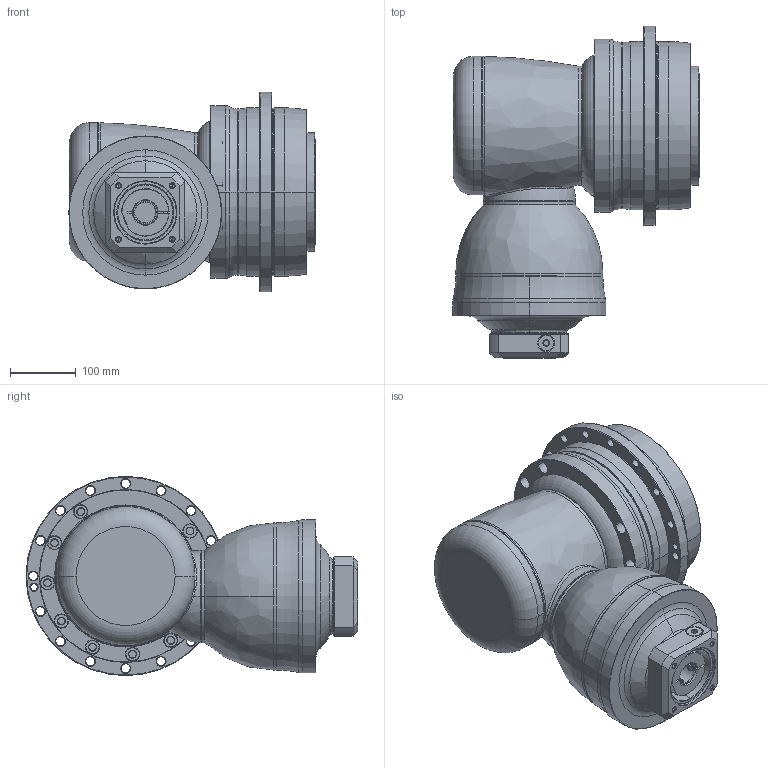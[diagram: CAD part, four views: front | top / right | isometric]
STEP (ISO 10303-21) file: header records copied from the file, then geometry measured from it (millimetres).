
FILE_DESCRIPTION((''),'2;1');
FILE_NAME('AHKB255_3ST_32-P0409700101_ASM','2016-12-01T',('d01943'),(''),'PRO/ENGINEER BY PARAMETRIC TECHNOLOGY CORPORATION, 2008410','PRO/ENGINEER BY PARAMETRIC TECHNOLOGY CORPORATION, 2008410','');
FILE_SCHEMA(('CONFIG_CONTROL_DESIGN'));
Length unit declared in the file: millimetre
Products named in the file (12): P1008600002; P1802700001; P0278700003; P0359700003; P1315600001; P1007600001; P1317600201; P0409700101; P0503700010; P0912502001; 21711418017; AHKB255_3ST_32-P0409700101_ASM
Assembly tree (11 placements, depth 2):
  AHKB255_3ST_32-P0409700101_ASM
    P1008600002
    P1802700001
    P0278700003
    P0359700003
    P1315600001
    P1007600001
    P1317600201
    P0409700101
    P0503700010
    P0912502001
    21711418017
Bounding box: 373.5 x 503 x 302 mm (x, y, z)
Volume: 16341240.3 mm3; surface area: 1311961.4 mm2
Topology: 12 solids, 12 shells, 1007 faces, 2295 edges, 1324 vertices
Faces by surface type: cylinder 368, cone 338, plane 136, torus 126, bspline 37, sphere 2
Entity records: 34662 total; most frequent: CARTESIAN_POINT 11476, DIRECTION 5340, ORIENTED_EDGE 4434, AXIS2_PLACEMENT_3D 2281, EDGE_CURVE 2217, VERTEX_POINT 1324, CIRCLE 1288, EDGE_LOOP 1187
